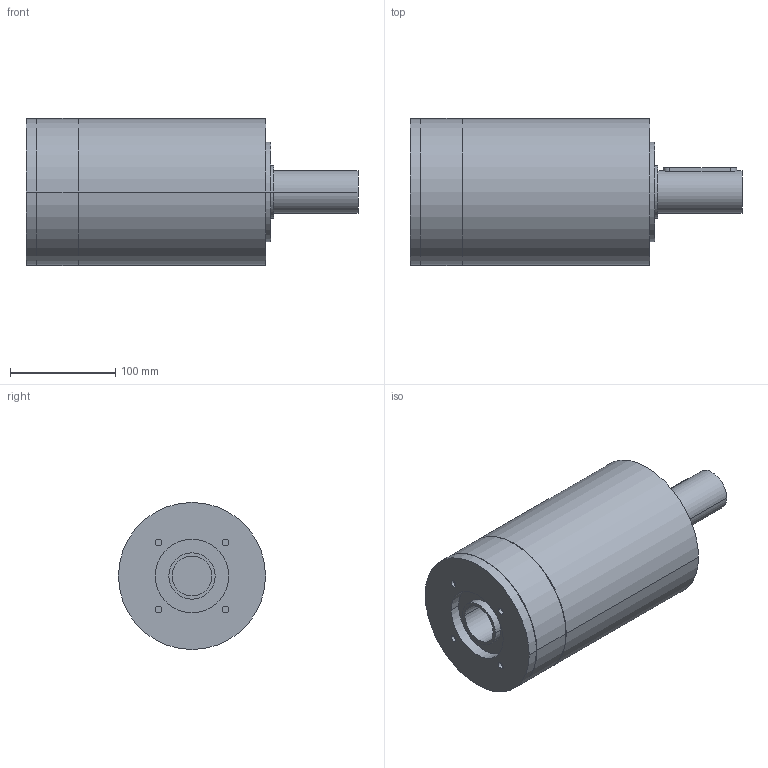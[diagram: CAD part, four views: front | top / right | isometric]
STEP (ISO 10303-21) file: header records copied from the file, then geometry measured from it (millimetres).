
FILE_DESCRIPTION(('CoCreate Modeling STEP Export'),'2;1');
FILE_NAME('GPR150_ig-9-12-16-20-28-35_40_B14_38_P15.stp','2014-08-19T17:04:39',(''),(''),'CoCreate Modeling STEP processor for AP214 (Solid Model)','CoCreate Modeling 16.00C 25-Feb-2009 (C) Parametric Technology GmbH','');
FILE_SCHEMA(('AUTOMOTIVE_DESIGN { 1 0 10303 214 1 1 1 1 }'));
Length unit declared in the file: millimetre
Products named in the file (2): GPR150_ig-9-12-16-20-28-35_40_B14_38_P15
Assembly tree (1 placements, depth 2):
  GPR150_ig-9-12-16-20-28-35_40_B14_38_P15
    GPR150_ig-9-12-16-20-28-35_40_B14_38_P15
Bounding box: 316 x 140 x 140 mm (x, y, z)
Volume: 3523966.4 mm3; surface area: 163063.3 mm2
Topology: 1 solids, 1 shells, 77 faces, 192 edges, 136 vertices
Faces by surface type: cylinder 46, plane 25, cone 6
Entity records: 1965 total; most frequent: ORIENTED_EDGE 380, CARTESIAN_POINT 379, DIRECTION 252, EDGE_CURVE 190, VERTEX_POINT 136, EDGE_LOOP 98, AXIS2_PLACEMENT_3D 97, FACE_OUTER_BOUND 77
